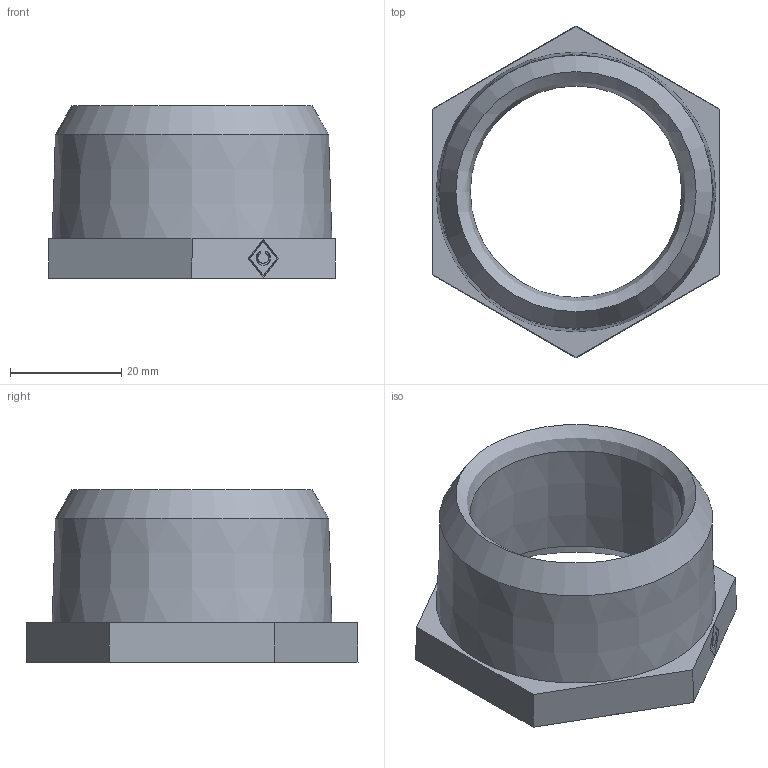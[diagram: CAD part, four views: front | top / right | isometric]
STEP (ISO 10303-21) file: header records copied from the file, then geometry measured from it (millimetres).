
FILE_DESCRIPTION((''),'2;1');
FILE_NAME('P:\Fastrack\53909_CRANE\Crane\Fig.140 Hexagon Bush\New 1.50 inch\140-1.50x1.25.stp','2009-09-14T11:25:02',('btaylor'),(''),'Autodesk Inventor 2008','Autodesk Inventor 2008','');
FILE_SCHEMA(('AUTOMOTIVE_DESIGN { 1 0 10303 214 1 1 1 1 }'));
Length unit declared in the file: millimetre
Products named in the file (1): 140-1.50x1.25
Bounding box: 51.7 x 59.7 x 31 mm (x, y, z)
Volume: 21558.4 mm3; surface area: 10029.3 mm2
Topology: 1 solids, 1 shells, 34 faces, 88 edges, 58 vertices
Faces by surface type: plane 21, bspline 9, cone 4
Entity records: 1159 total; most frequent: CARTESIAN_POINT 376, ORIENTED_EDGE 162, DIRECTION 120, EDGE_CURVE 81, VERTEX_POINT 56, VECTOR 56, LINE 56, EDGE_LOOP 45
